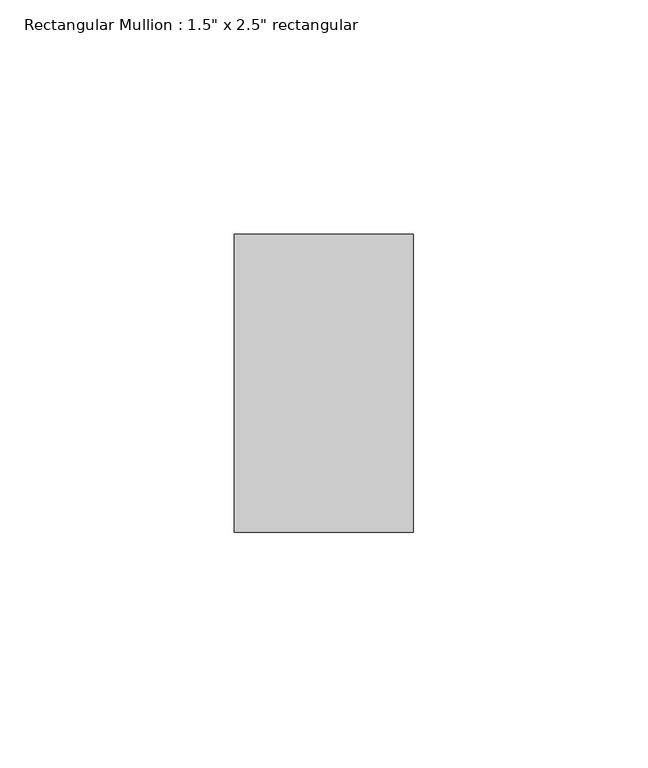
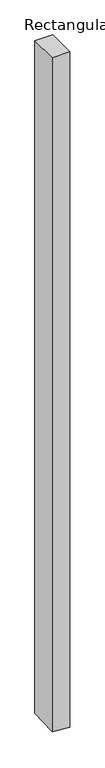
"""IFC4 building model written with IfcOpenShell, lengths in millimetres: member geometry."""

from ifc_helpers import new_model, si_unit, origin, place, context, project, spatial, faceted_brep, source, transform, mapped, element, save


def member_f37d5125(model_context):
    return source(origin(), model_context, "Body", "Brep", [
        faceted_brep([(0.0, 31.75, 0.0), (-38.1, 31.75, 0.0), (-38.1, -31.75, 0.0), (0.0, -31.75, 0.0), (0.0, 31.75, -1523.143574), (-38.1, 31.75, -1520.5787915), (-38.1, -31.75, -1524.8728441), (0.0, -31.75, -1527.4376267)], [[[0, 1, 2, 3]], [[1, 0, 4, 5]], [[2, 1, 5, 6]], [[3, 2, 6, 7]], [[0, 3, 7, 4]], [[4, 7, 6, 5]]]),
    ])


if __name__ == "__main__":
    model = new_model("IFC4")
    model_context = context("Model", 3, world=origin())
    ifc_project = project(units=[si_unit("LENGTHUNIT", "METRE", prefix="MILLI")], contexts=[model_context])
    site = spatial("IfcSite", under=ifc_project)
    building = spatial("IfcBuilding", under=site)
    placement = place(None, origin())
    member_shape = member_f37d5125(model_context)
    element("IfcMember", 1, ObjectType="Rectangular Mullion : 1.5\" x 2.5\" rectangular", at=placement, inside=building, context=model_context, shape_type="MappedRepresentation", body=[
        mapped(member_shape, transform((0.0, 0.0, 0.0), x_axis=(1.0, 0.0, 0.0), y_axis=(0.0, 1.0, 0.0), z_axis=(0.0, 0.0, 1.0))),
    ])
    save(model, "model.ifc")
